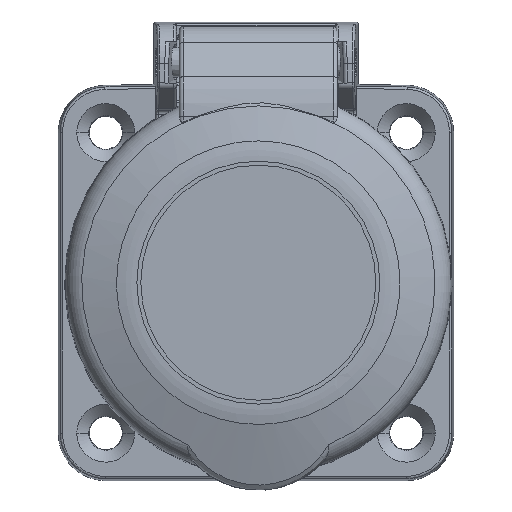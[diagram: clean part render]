
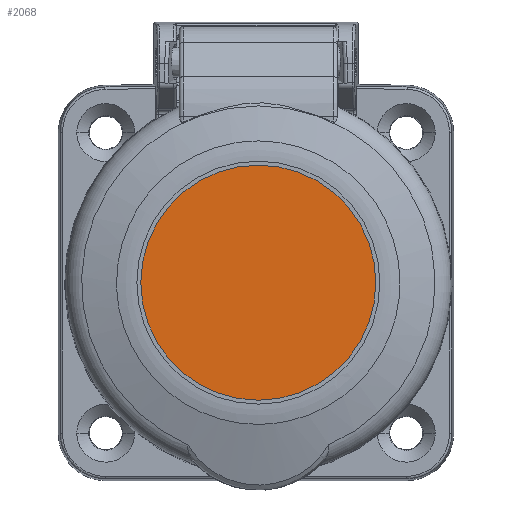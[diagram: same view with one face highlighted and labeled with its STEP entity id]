
A CAD part, top view. The second image highlights one B-rep face of the part: STEP entity #2068.
In plain terms, the highlighted planar face has unit normal (0, 0, 1).
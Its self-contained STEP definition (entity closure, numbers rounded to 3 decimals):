
#2068=ADVANCED_FACE('',(#3943),#2954,.F.);
#2954=PLANE('',#24231);
#3943=FACE_OUTER_BOUND('',#5349,.T.);
#5349=EDGE_LOOP('',(#14136));
#9859=CIRCLE('',#24229,14.862);
#14136=ORIENTED_EDGE('',*,*,#21039,.F.);
#18210=VERTEX_POINT('',#52532);
#21039=EDGE_CURVE('',#18210,#18210,#9859,.T.);
#24229=AXIS2_PLACEMENT_3D('',#52531,#28177,#28178);
#24231=AXIS2_PLACEMENT_3D('',#52534,#28181,#28182);
#28177=DIRECTION('',(0.,0.,-1.));
#28178=DIRECTION('',(-1.,0.,0.));
#28181=DIRECTION('',(0.,0.,-1.));
#28182=DIRECTION('',(1.,0.,0.));
#52531=CARTESIAN_POINT('',(0.,0.,14.208));
#52532=CARTESIAN_POINT('',(-14.862,0.002,14.208));
#52534=CARTESIAN_POINT('',(71.989,-72.011,14.208));
